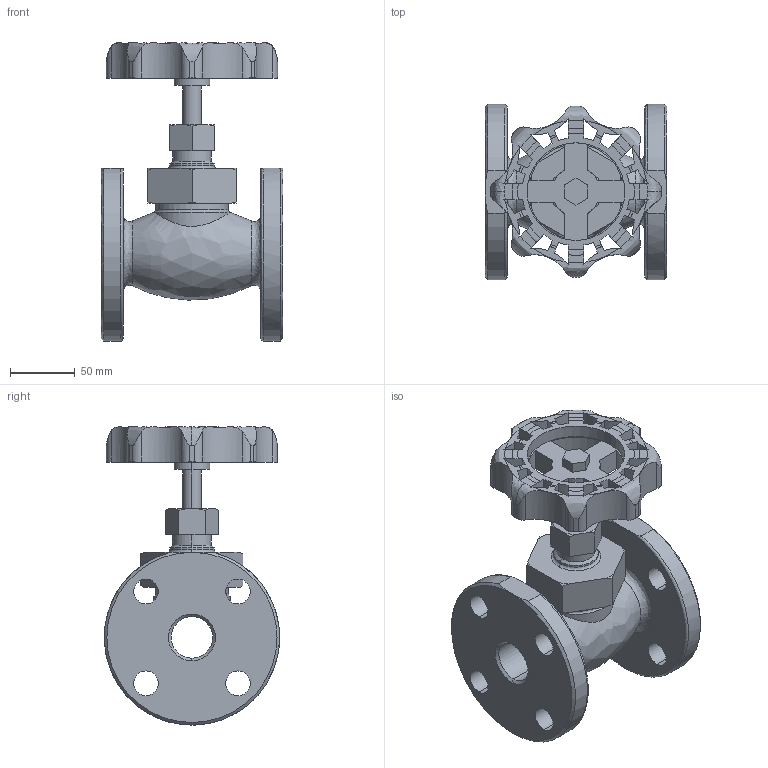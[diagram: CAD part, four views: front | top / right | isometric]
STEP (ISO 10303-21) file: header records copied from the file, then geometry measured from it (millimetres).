
FILE_DESCRIPTION( (''), '2;1');
FILE_NAME ('PC1027.9568.GLV-10F 32A_16691.stp','2025-07-28T11:36:38',(''),(''),'spGate 19.8.4 (****-****-****-****)','','');
FILE_SCHEMA (('AUTOMOTIVE_DESIGN'));
Length unit declared in the file: millimetre
Bounding box: 140 x 134.95 x 229.5 mm (x, y, z)
Volume: 1011691.9 mm3; surface area: 174393.8 mm2
Topology: 1 solids, 1 shells, 271 faces, 803 edges, 528 vertices
Faces by surface type: cylinder 113, plane 90, bspline 68
Entity records: 17097 total; most frequent: CARTESIAN_POINT 4179, ORIENTED_EDGE 1604, DIRECTION 1282, COLOUR_RGB 1074, PRESENTATION_STYLE_ASSIGNMENT 1074, STYLED_ITEM 1074, EDGE_CURVE 802, DRAUGHTING_PRE_DEFINED_CURVE_FONT 802
